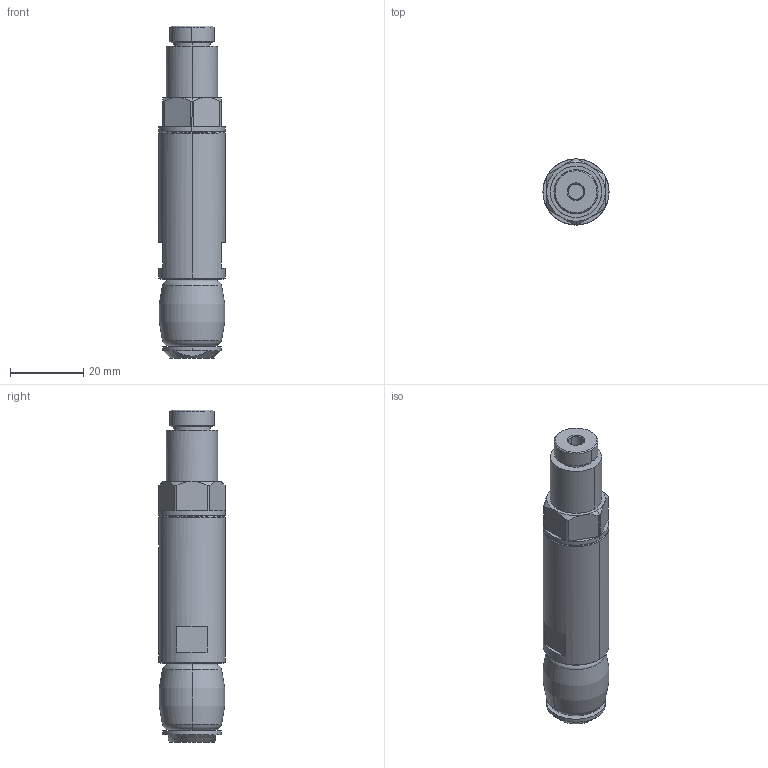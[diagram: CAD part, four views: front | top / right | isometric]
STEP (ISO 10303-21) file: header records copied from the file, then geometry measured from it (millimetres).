
FILE_DESCRIPTION (( 'STEP AP214' ), '1' );
FILE_NAME ('GBD18U.STEP', '2019-11-12T09:36:55', ( '微软用户' ), ( '微软中国' ), 'SwSTEP 2.0', 'SolidWorks 2016', '' );
FILE_SCHEMA (( 'AUTOMOTIVE_DESIGN' ));
Length unit declared in the file: millimetre
Products named in the file (1): GBD18U
Bounding box: 18 x 18 x 90.5 mm (x, y, z)
Volume: 14302.7 mm3; surface area: 10384.7 mm2
Topology: 4 solids, 4 shells, 179 faces, 393 edges, 242 vertices
Faces by surface type: cylinder 58, bspline 42, plane 36, torus 24, cone 19
Entity records: 12623 total; most frequent: CARTESIAN_POINT 6894, ORIENTED_EDGE 786, DIRECTION 707, EDGE_CURVE 393, AXIS2_PLACEMENT_3D 303, VERTEX_POINT 242, EDGE_LOOP 205, UNCERTAINTY_MEASURE_WITH_UNIT 185
